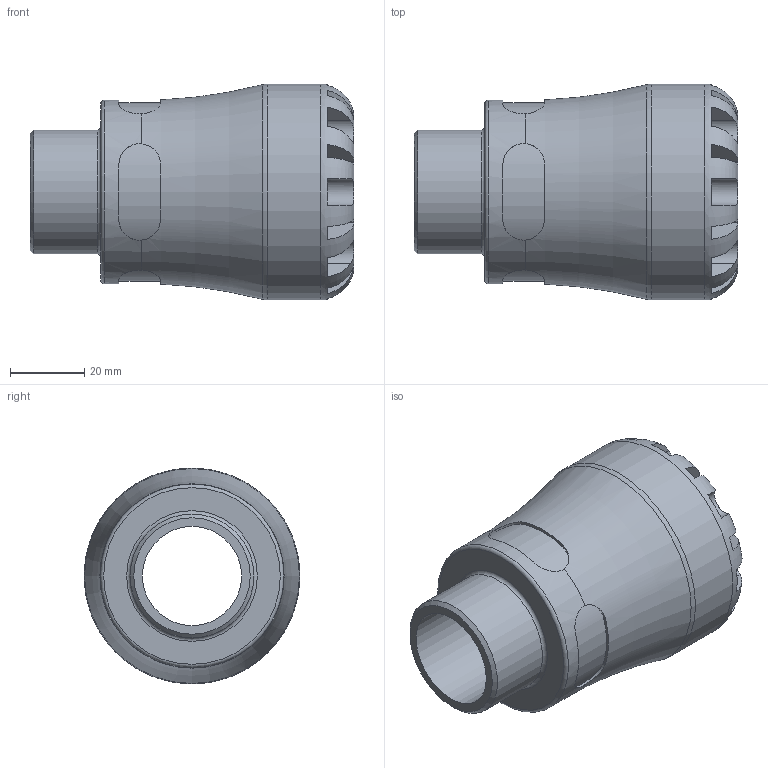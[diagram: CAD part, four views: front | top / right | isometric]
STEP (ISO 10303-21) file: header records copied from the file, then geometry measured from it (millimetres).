
FILE_DESCRIPTION(/* description */ ('PLASSON G-PLASS Male Adaptor 32X1'''''),/* implementation_level */ '2;1');
FILE_NAME(/* name */ 'C:\Dropbox\KIMPROJECTS-Inventor 2019\99-16-3568-Processing\S1\150200\stp\150200032010.stp',/* time_stamp */ '2023-10-17T19:14:44+03:00',/* author */ ('KIM'),/* organization */ (''),/* preprocessor_version */ 'ST-DEVELOPER v17.2',/* originating_system */ 'Autodesk Inventor 2019',/* authorisation */ '');
FILE_SCHEMA (('AUTOMOTIVE_DESIGN { 1 0 10303 214 3 1 1 }'));
Length unit declared in the file: millimetre
Products named in the file (1): 150200032010
Bounding box: 87 x 58 x 58 mm (x, y, z)
Volume: 102014.1 mm3; surface area: 25971.7 mm2
Topology: 1 solids, 1 shells, 100 faces, 273 edges, 177 vertices
Faces by surface type: plane 60, cylinder 33, torus 5, cone 2
Full cylindrical faces by diameter (mm): 26.667 x1, 32 x1, 33.249 x1, 49.3 x1, 58 x1
Entity records: 4129 total; most frequent: CARTESIAN_POINT 1513, ORIENTED_EDGE 546, DIRECTION 517, EDGE_CURVE 273, AXIS2_PLACEMENT_3D 215, VERTEX_POINT 177, CIRCLE 114, EDGE_LOOP 104
